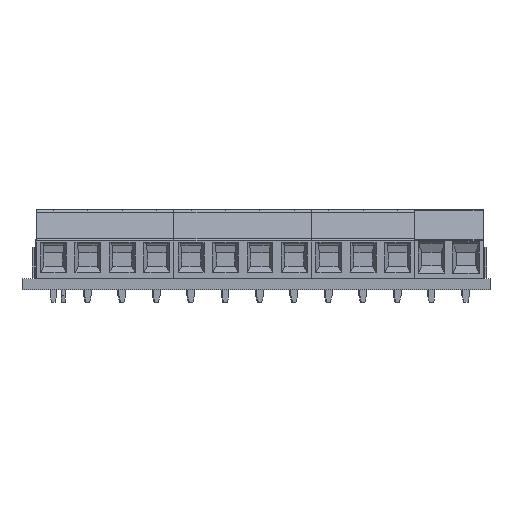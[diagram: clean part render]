
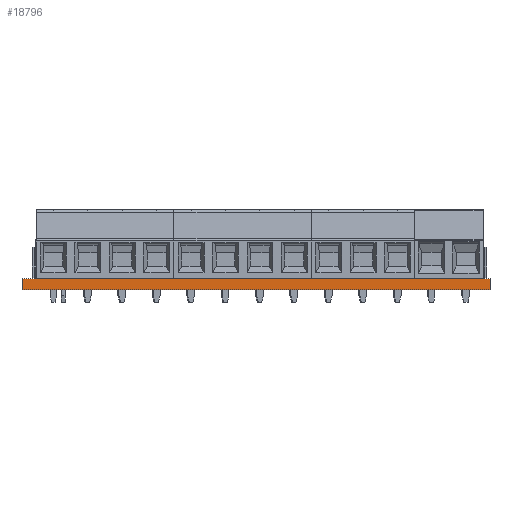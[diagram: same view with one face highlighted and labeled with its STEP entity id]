
A CAD part, front view. The second image highlights one B-rep face of the part: STEP entity #18796.
In plain terms, the highlighted planar face has unit normal (0, -1, 0).
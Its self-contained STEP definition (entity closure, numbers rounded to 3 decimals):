
#18796 = ADVANCED_FACE('',(#18797),#18831,.T.);
#18797 = FACE_BOUND('',#18798,.T.);
#18798 = EDGE_LOOP('',(#18799,#18809,#18817,#18825));
#18799 = ORIENTED_EDGE('',*,*,#18800,.T.);
#18800 = EDGE_CURVE('',#18801,#18803,#18805,.T.);
#18801 = VERTEX_POINT('',#18802);
#18802 = CARTESIAN_POINT('',(137.,-197.,0.));
#18803 = VERTEX_POINT('',#18804);
#18804 = CARTESIAN_POINT('',(137.,-197.,1.6));
#18805 = LINE('',#18806,#18807);
#18806 = CARTESIAN_POINT('',(137.,-197.,0.));
#18807 = VECTOR('',#18808,1.);
#18808 = DIRECTION('',(0.,0.,1.));
#18809 = ORIENTED_EDGE('',*,*,#18810,.T.);
#18810 = EDGE_CURVE('',#18803,#18811,#18813,.T.);
#18811 = VERTEX_POINT('',#18812);
#18812 = CARTESIAN_POINT('',(69.,-197.,1.6));
#18813 = LINE('',#18814,#18815);
#18814 = CARTESIAN_POINT('',(137.,-197.,1.6));
#18815 = VECTOR('',#18816,1.);
#18816 = DIRECTION('',(-1.,0.,0.));
#18817 = ORIENTED_EDGE('',*,*,#18818,.F.);
#18818 = EDGE_CURVE('',#18819,#18811,#18821,.T.);
#18819 = VERTEX_POINT('',#18820);
#18820 = CARTESIAN_POINT('',(69.,-197.,0.));
#18821 = LINE('',#18822,#18823);
#18822 = CARTESIAN_POINT('',(69.,-197.,0.));
#18823 = VECTOR('',#18824,1.);
#18824 = DIRECTION('',(0.,0.,1.));
#18825 = ORIENTED_EDGE('',*,*,#18826,.F.);
#18826 = EDGE_CURVE('',#18801,#18819,#18827,.T.);
#18827 = LINE('',#18828,#18829);
#18828 = CARTESIAN_POINT('',(137.,-197.,0.));
#18829 = VECTOR('',#18830,1.);
#18830 = DIRECTION('',(-1.,0.,0.));
#18831 = PLANE('',#18832);
#18832 = AXIS2_PLACEMENT_3D('',#18833,#18834,#18835);
#18833 = CARTESIAN_POINT('',(137.,-197.,0.));
#18834 = DIRECTION('',(0.,-1.,0.));
#18835 = DIRECTION('',(-1.,0.,0.));
